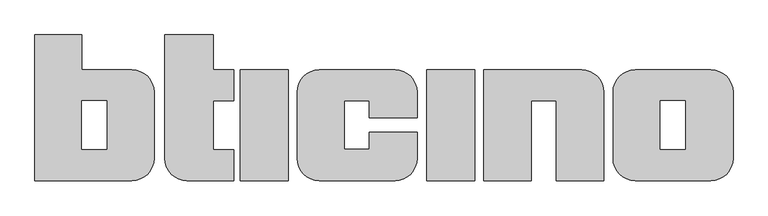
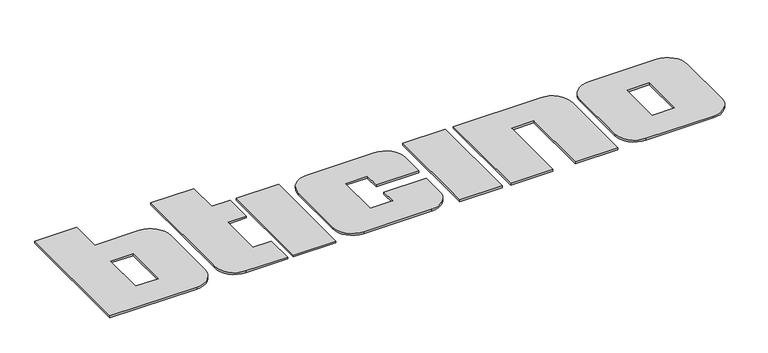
"""IFC4 building model written with IfcOpenShell, lengths in millimetres: proxy geometry, BTicino_Logo_Grande : BTicino_Logo_Grande."""

from ifc_helpers import new_model, si_unit, point, frame_2d, origin, origin_with_axes, place, context, project, spatial, polyline, circle_curve, trimmed, segment, composite_curve, outline, extrude, source, transform, mapped, element, save


def entourage_2e1bad55(model_context):
    return source(origin(), model_context, "Body", "SweptSolid", [
        extrude(outline(composite_curve([segment(trimmed(circle_curve(frame_2d((27.8721671, 200.0)), 50.0), [point((27.8721671, 250.0))], [point((77.8721671, 200.0))], False, "CARTESIAN"), True, "CONTINUOUS"), segment(polyline([(77.8721671, 200.0), (77.8721671, 141.7900159), (-29.7978433, 141.7900159), (-29.7978433, 180.0464311), (-86.1913358, 180.0464311), (-86.1913358, 70.434166), (-29.7978433, 70.434166), (-29.7978433, 109.5042215), (77.8721671, 109.5042215), (77.8721671, 50.0)]), True, "CONTINUOUS"), segment(trimmed(circle_curve(frame_2d((27.8721671, 50.0)), 50.0), [point((77.8721671, 50.0))], [point((27.8721671, 0.0))], False, "CARTESIAN"), True, "CONTINUOUS"), segment(polyline([(27.8721671, 0.0), (-143.0638754, 0.0)]), True, "CONTINUOUS"), segment(trimmed(circle_curve(frame_2d((-143.0638754, 50.0)), 50.0), [point((-143.0638754, 0.0))], [point((-193.0638754, 50.0))], False, "CARTESIAN"), True, "CONTINUOUS"), segment(polyline([(-193.0638754, 50.0), (-193.0638754, 200.0)]), True, "CONTINUOUS"), segment(trimmed(circle_curve(frame_2d((-143.0638754, 200.0)), 50.0), [point((-193.0638754, 200.0))], [point((-143.0638754, 250.0))], False, "CARTESIAN"), True, "CONTINUOUS"), segment(polyline([(-143.0638754, 250.0), (27.8721671, 250.0)]), True, "CONTINUOUS")], self_intersect=False)), origin_with_axes(), (0.0, 0.0, 1.0), 5.0),
        extrude(outline(composite_curve([segment(trimmed(circle_curve(frame_2d((449.0158107, 200.0)), 50.0), [point((449.0158107, 250.0))], [point((499.0158107, 200.0))], False, "CARTESIAN"), True, "CONTINUOUS"), segment(polyline([(499.0158107, 200.0), (499.0158107, 0.0), (391.3458003, 0.0), (391.3458003, 180.0464311), (334.9523077, 180.0464311), (334.9523077, 0.0), (228.0797682, 0.0), (228.0797682, 250.0), (449.0158107, 250.0)]), True, "CONTINUOUS")], self_intersect=False)), origin_with_axes(), (0.0, 0.0, 1.0), 5.0),
        extrude(outline(composite_curve([segment(trimmed(circle_curve(frame_2d((740.985189, 200.0)), 50.0), [point((740.985189, 250.0))], [point((790.985189, 200.0))], False, "CARTESIAN"), True, "CONTINUOUS"), segment(polyline([(790.985189, 200.0), (790.985189, 50.0)]), True, "CONTINUOUS"), segment(trimmed(circle_curve(frame_2d((740.985189, 50.0)), 50.0), [point((790.985189, 50.0))], [point((740.985189, 0.0))], False, "CARTESIAN"), True, "CONTINUOUS"), segment(polyline([(740.985189, 0.0), (570.0491464, 0.0)]), True, "CONTINUOUS"), segment(trimmed(circle_curve(frame_2d((570.0491464, 50.0)), 50.0), [point((570.0491464, 0.0))], [point((520.0491464, 50.0))], False, "CARTESIAN"), True, "CONTINUOUS"), segment(polyline([(520.0491464, 50.0), (520.0491464, 200.0)]), True, "CONTINUOUS"), segment(trimmed(circle_curve(frame_2d((570.0491464, 200.0)), 50.0), [point((520.0491464, 200.0))], [point((570.0491464, 250.0))], False, "CARTESIAN"), True, "CONTINUOUS"), segment(polyline([(570.0491464, 250.0), (740.985189, 250.0)]), True, "CONTINUOUS")], self_intersect=False), holes=[polyline([(683.3151785, 180.0464311), (626.921686, 180.0464311), (626.921686, 70.434166), (683.3151785, 70.434166), (683.3151785, 180.0464311)])]), origin_with_axes(), (0.0, 0.0, 1.0), 5.0),
        extrude(outline(polyline([(207.6606203, 250.0), (207.6606203, 0.0), (100.0, 0.0), (100.0, 250.0), (207.6606203, 250.0)])), origin_with_axes(), (0.0, 0.0, 1.0), 5.0),
        extrude(outline(polyline([(-213.4678759, 250.0), (-213.4678759, 0.0), (-321.1284962, 0.0), (-321.1284962, 250.0), (-213.4678759, 250.0)])), origin_with_axes(), (0.0, 0.0, 1.0), 5.0),
        extrude(outline(composite_curve([segment(polyline([(-491.8031259, 50.0), (-491.8031259, 328.9324569), (-382.8832739, 328.9324569), (-382.8832739, 250.0), (-336.0082739, 250.0), (-336.0082739, 180.5632351), (-382.8832739, 180.5632351), (-382.8832739, 70.2338068), (-336.0082739, 70.2338068), (-336.0082739, 0.0), (-441.8031259, 0.0)]), True, "CONTINUOUS"), segment(trimmed(circle_curve(frame_2d((-441.8031259, 50.0)), 50.0), [point((-441.8031259, 0.0))], [point((-491.8031259, 50.0))], False, "CARTESIAN"), True, "CONTINUOUS")], self_intersect=False)), origin_with_axes(), (0.0, 0.0, 1.0), 5.0),
        extrude(outline(composite_curve([segment(polyline([(-785.0356109, 0.0), (-785.0356109, 328.9324569), (-678.7742924, 328.9324569), (-678.7742924, 250.0), (-566.1965836, 250.0)]), True, "CONTINUOUS"), segment(trimmed(circle_curve(frame_2d((-566.1965836, 200.0)), 50.0), [point((-566.1965836, 250.0))], [point((-516.1965836, 200.0))], False, "CARTESIAN"), True, "CONTINUOUS"), segment(polyline([(-516.1965836, 200.0), (-516.1965836, 50.0)]), True, "CONTINUOUS"), segment(trimmed(circle_curve(frame_2d((-566.1965836, 50.0)), 50.0), [point((-516.1965836, 50.0))], [point((-566.1965836, 0.0))], False, "CARTESIAN"), True, "CONTINUOUS"), segment(polyline([(-566.1965836, 0.0), (-785.0356109, 0.0)]), True, "CONTINUOUS")], self_intersect=False), holes=[polyline([(-622.3807999, 180.0464311), (-678.7742924, 180.0464311), (-678.7742924, 70.434166), (-622.3807999, 70.434166), (-622.3807999, 180.0464311)])]), origin_with_axes(), (0.0, 0.0, 1.0), 5.0),
    ])


if __name__ == "__main__":
    model = new_model("IFC4")
    model_context = context("Model", 3, world=origin())
    ifc_project = project(units=[si_unit("LENGTHUNIT", "METRE", prefix="MILLI")], contexts=[model_context])
    site = spatial("IfcSite", under=ifc_project)
    building = spatial("IfcBuilding", under=site)
    placement = place(None, origin())
    entourage_shape = entourage_2e1bad55(model_context)
    element("IfcBuildingElementProxy", 1, Name="BTicino_Logo_Grande : BTicino_Logo_Grande", ObjectType="BTicino_Logo_Grande : BTicino_Logo_Grande", at=placement, inside=building, context=model_context, shape_type="MappedRepresentation", body=[
        mapped(entourage_shape, transform((0.0, 0.0, 0.0), x_axis=(1.0, 0.0, 0.0), y_axis=(0.0, 1.0, 0.0), z_axis=(0.0, 0.0, 1.0))),
    ])
    save(model, "model.ifc")
